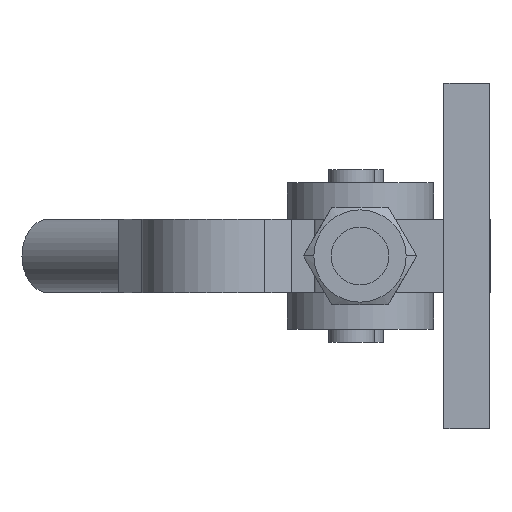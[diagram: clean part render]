
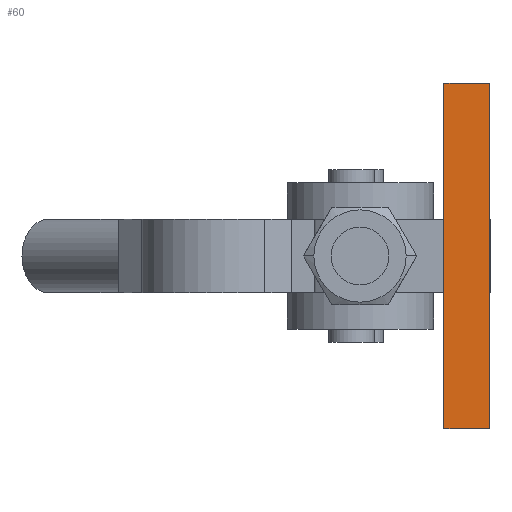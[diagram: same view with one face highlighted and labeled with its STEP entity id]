
A CAD part, left-side view. The second image highlights one B-rep face of the part: STEP entity #60.
In plain terms, the highlighted planar face has unit normal (-1, 0, 0) as drawn and (0, 0, 1) by its records, which use the part's own axes.
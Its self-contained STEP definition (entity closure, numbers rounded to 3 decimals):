
#60 = ADVANCED_FACE ( 'NONE', ( #3939 ), #3940, .T. ) ;
#280 = EDGE_CURVE ( 'NONE', #4344, #4350, #3016, .T. ) ;
#315 = EDGE_CURVE ( 'NONE', #4357, #4344, #3058, .T. ) ;
#317 = EDGE_CURVE ( 'NONE', #4331, #4350, #3061, .T. ) ;
#814 = CARTESIAN_POINT ( 'NONE',  ( 30., -7.937, 12.7 ) ) ;
#827 = CARTESIAN_POINT ( 'NONE',  ( -30., 0., 12.7 ) ) ;
#833 = CARTESIAN_POINT ( 'NONE',  ( 30., 0., 12.7 ) ) ;
#840 = CARTESIAN_POINT ( 'NONE',  ( -30., -7.937, 12.7 ) ) ;
#1259 = VECTOR ( 'NONE', #3018, 1000. ) ;
#2032 = LINE ( 'NONE', #2033, #3602 ) ;
#2033 = CARTESIAN_POINT ( 'NONE',  ( 30., -7.937, 12.7 ) ) ;
#2034 = DIRECTION ( 'NONE',  ( 1., 0., 0. ) ) ;
#2132 = ORIENTED_EDGE ( 'NONE', *, *, #280, .F. ) ;
#2133 = ORIENTED_EDGE ( 'NONE', *, *, #315, .F. ) ;
#2134 = ORIENTED_EDGE ( 'NONE', *, *, #3672, .T. ) ;
#2135 = ORIENTED_EDGE ( 'NONE', *, *, #317, .T. ) ;
#2536 = AXIS2_PLACEMENT_3D ( 'NONE', #3936, #3943, #3944 ) ;
#3016 = LINE ( 'NONE', #3017, #1259 ) ;
#3017 = CARTESIAN_POINT ( 'NONE',  ( 30., 0., 12.7 ) ) ;
#3018 = DIRECTION ( 'NONE',  ( 1., 0., 0. ) ) ;
#3058 = LINE ( 'NONE', #3066, #4449 ) ;
#3061 = LINE ( 'NONE', #3068, #4450 ) ;
#3066 = CARTESIAN_POINT ( 'NONE',  ( -30., -7.937, 12.7 ) ) ;
#3067 = DIRECTION ( 'NONE',  ( 0., 1., 0. ) ) ;
#3068 = CARTESIAN_POINT ( 'NONE',  ( 30., -7.937, 12.7 ) ) ;
#3070 = DIRECTION ( 'NONE',  ( 0., 1., 0. ) ) ;
#3147 = EDGE_LOOP ( 'NONE', ( #2132, #2133, #2134, #2135 ) ) ;
#3602 = VECTOR ( 'NONE', #2034, 1000. ) ;
#3672 = EDGE_CURVE ( 'NONE', #4357, #4331, #2032, .T. ) ;
#3936 = CARTESIAN_POINT ( 'NONE',  ( 30., -7.937, 12.7 ) ) ;
#3939 = FACE_OUTER_BOUND ( 'NONE', #3147, .T. ) ;
#3940 = PLANE ( 'NONE',  #2536 ) ;
#3943 = DIRECTION ( 'NONE',  ( 0., 0., 1. ) ) ;
#3944 = DIRECTION ( 'NONE',  ( 1., 0., 0. ) ) ;
#4331 = VERTEX_POINT ( 'NONE', #814 ) ;
#4344 = VERTEX_POINT ( 'NONE', #827 ) ;
#4350 = VERTEX_POINT ( 'NONE', #833 ) ;
#4357 = VERTEX_POINT ( 'NONE', #840 ) ;
#4449 = VECTOR ( 'NONE', #3067, 1000. ) ;
#4450 = VECTOR ( 'NONE', #3070, 1000. ) ;
